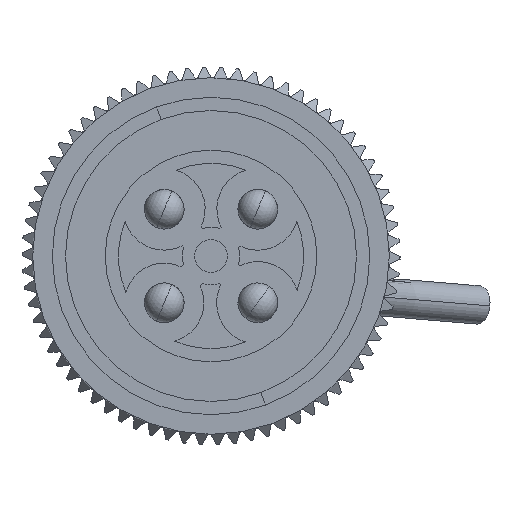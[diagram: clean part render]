
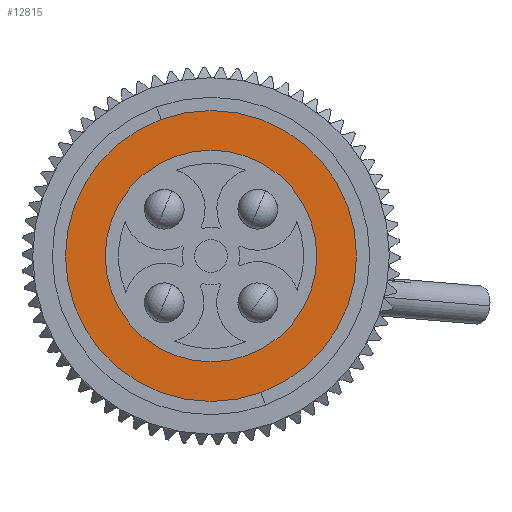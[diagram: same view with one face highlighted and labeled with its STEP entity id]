
A CAD part, left-side view. The second image highlights one B-rep face of the part: STEP entity #12815.
In plain terms, the highlighted planar face has unit normal (-1, 0, 0).
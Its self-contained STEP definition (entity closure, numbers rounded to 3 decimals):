
#213 = CARTESIAN_POINT ( 'NONE',  ( -29.793, 1.217, 62. ) ) ;
#226 = CARTESIAN_POINT ( 'NONE',  ( -29.793, 1.217, 60.5 ) ) ;
#775 = CIRCLE ( 'NONE', #22698, 5.5 ) ;
#1422 = AXIS2_PLACEMENT_3D ( 'NONE', #29801, #18789, #32581 ) ;
#2657 = DIRECTION ( 'NONE',  ( -1., 0., 0. ) ) ;
#3656 = CIRCLE ( 'NONE', #4778, 4. ) ;
#4778 = AXIS2_PLACEMENT_3D ( 'NONE', #13357, #2657, #21497 ) ;
#4877 = FACE_BOUND ( 'NONE', #22242, .T. ) ;
#4968 = VERTEX_POINT ( 'NONE', #10022 ) ;
#6041 = CARTESIAN_POINT ( 'NONE',  ( -29.793, 1.217, 66. ) ) ;
#7609 = AXIS2_PLACEMENT_3D ( 'NONE', #18676, #24100, #27051 ) ;
#7632 = CARTESIAN_POINT ( 'NONE',  ( -29.793, 1.217, 66. ) ) ;
#7941 = ORIENTED_EDGE ( 'NONE', *, *, #26192, .F. ) ;
#9982 = PLANE ( 'NONE',  #1422 ) ;
#10022 = CARTESIAN_POINT ( 'NONE',  ( -29.793, 1.217, 70. ) ) ;
#11063 = DIRECTION ( 'NONE',  ( -1., 0., 0. ) ) ;
#11183 = ORIENTED_EDGE ( 'NONE', *, *, #19395, .T. ) ;
#12815 = ADVANCED_FACE ( 'NONE', ( #4877, #33997 ), #9982, .F. ) ;
#13357 = CARTESIAN_POINT ( 'NONE',  ( -29.793, 1.217, 66. ) ) ;
#15328 = CARTESIAN_POINT ( 'NONE',  ( -29.793, 1.217, 71.5 ) ) ;
#16553 = VERTEX_POINT ( 'NONE', #15328 ) ;
#16593 = DIRECTION ( 'NONE',  ( 0., 0., 1. ) ) ;
#18676 = CARTESIAN_POINT ( 'NONE',  ( -29.793, 1.217, 66. ) ) ;
#18789 = DIRECTION ( 'NONE',  ( 1., 0., 0. ) ) ;
#19395 = EDGE_CURVE ( 'NONE', #31247, #16553, #26560, .T. ) ;
#19443 = DIRECTION ( 'NONE',  ( -1., 0., 0. ) ) ;
#21497 = DIRECTION ( 'NONE',  ( 0., 0., -1. ) ) ;
#21520 = EDGE_CURVE ( 'NONE', #16553, #31247, #775, .T. ) ;
#22242 = EDGE_LOOP ( 'NONE', ( #33224, #7941 ) ) ;
#22698 = AXIS2_PLACEMENT_3D ( 'NONE', #7632, #11063, #34252 ) ;
#23327 = CIRCLE ( 'NONE', #7609, 4. ) ;
#24100 = DIRECTION ( 'NONE',  ( -1., 0., 0. ) ) ;
#25564 = ORIENTED_EDGE ( 'NONE', *, *, #21520, .T. ) ;
#26152 = EDGE_CURVE ( 'NONE', #4968, #27107, #3656, .T. ) ;
#26192 = EDGE_CURVE ( 'NONE', #27107, #4968, #23327, .T. ) ;
#26560 = CIRCLE ( 'NONE', #28250, 5.5 ) ;
#27051 = DIRECTION ( 'NONE',  ( 0., 0., -1. ) ) ;
#27107 = VERTEX_POINT ( 'NONE', #213 ) ;
#28250 = AXIS2_PLACEMENT_3D ( 'NONE', #6041, #19443, #16593 ) ;
#29176 = EDGE_LOOP ( 'NONE', ( #25564, #11183 ) ) ;
#29801 = CARTESIAN_POINT ( 'NONE',  ( -29.793, 1.217, 66. ) ) ;
#31247 = VERTEX_POINT ( 'NONE', #226 ) ;
#32581 = DIRECTION ( 'NONE',  ( 0., 0., -1. ) ) ;
#33224 = ORIENTED_EDGE ( 'NONE', *, *, #26152, .F. ) ;
#33997 = FACE_OUTER_BOUND ( 'NONE', #29176, .T. ) ;
#34252 = DIRECTION ( 'NONE',  ( 0., 0., 1. ) ) ;
